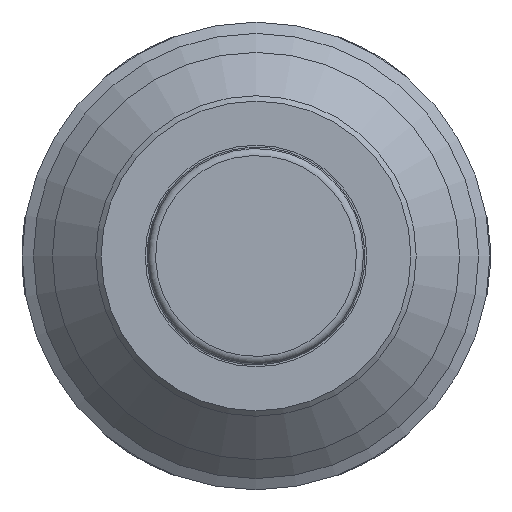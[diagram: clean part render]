
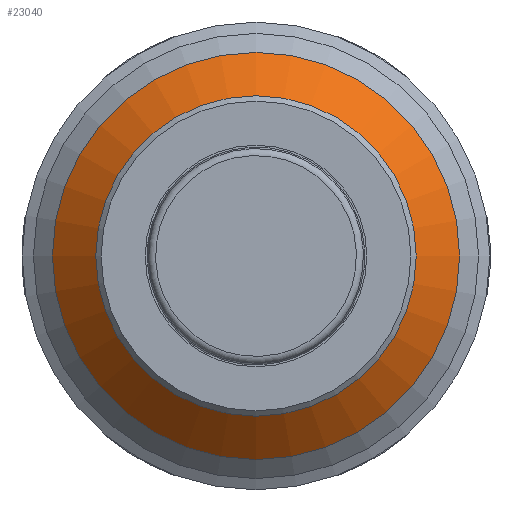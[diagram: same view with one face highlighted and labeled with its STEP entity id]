
A CAD part, front view. The second image highlights one B-rep face of the part: STEP entity #23040.
In plain terms, the highlighted conical face has half-angle 46.45 degrees and reference radius 17 mm.
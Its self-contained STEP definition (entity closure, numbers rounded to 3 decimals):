
#2368=CONICAL_SURFACE('',#24331,17.,0.811);
#2390=LINE('',#28902,#3831);
#3831=VECTOR('',#25397,17.);
#6693=FACE_OUTER_BOUND('',#7945,.T.);
#7945=EDGE_LOOP('',(#15654,#15655,#15656,#15657));
#9267=CIRCLE('',#24330,19.025);
#9268=CIRCLE('',#24332,14.975);
#9764=VERTEX_POINT('',#28897);
#9765=VERTEX_POINT('',#28901);
#12116=EDGE_CURVE('',#9764,#9764,#9267,.T.);
#12117=EDGE_CURVE('',#9764,#9765,#2390,.T.);
#12118=EDGE_CURVE('',#9765,#9765,#9268,.T.);
#15654=ORIENTED_EDGE('',*,*,#12116,.F.);
#15655=ORIENTED_EDGE('',*,*,#12117,.T.);
#15656=ORIENTED_EDGE('',*,*,#12118,.T.);
#15657=ORIENTED_EDGE('',*,*,#12117,.F.);
#23040=ADVANCED_FACE('',(#6693),#2368,.T.);
#24330=AXIS2_PLACEMENT_3D('',#28899,#25393,#25394);
#24331=AXIS2_PLACEMENT_3D('',#28900,#25395,#25396);
#24332=AXIS2_PLACEMENT_3D('',#28903,#25398,#25399);
#25393=DIRECTION('center_axis',(0.,1.,0.));
#25394=DIRECTION('ref_axis',(1.,0.,0.));
#25395=DIRECTION('center_axis',(0.,1.,0.));
#25396=DIRECTION('ref_axis',(-1.,0.,0.));
#25397=DIRECTION('',(-0.725,-0.689,0.));
#25398=DIRECTION('center_axis',(0.,1.,0.));
#25399=DIRECTION('ref_axis',(1.,0.,0.));
#28897=CARTESIAN_POINT('',(19.025,-8.15,0.));
#28899=CARTESIAN_POINT('Origin',(0.,-8.15,0.));
#28900=CARTESIAN_POINT('Origin',(0.,-10.075,0.));
#28901=CARTESIAN_POINT('',(14.975,-12.,0.));
#28902=CARTESIAN_POINT('',(17.,-10.075,0.));
#28903=CARTESIAN_POINT('Origin',(0.,-12.,0.));
